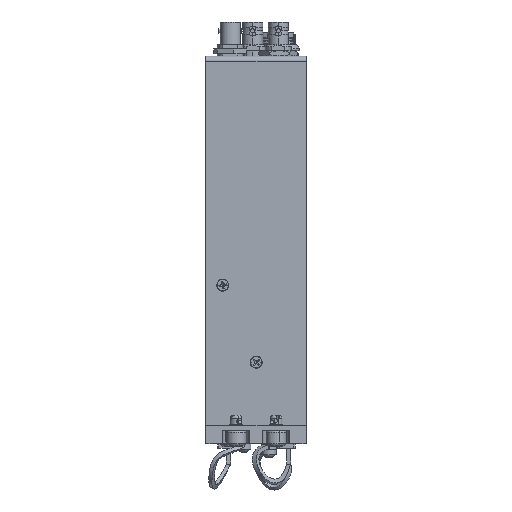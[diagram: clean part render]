
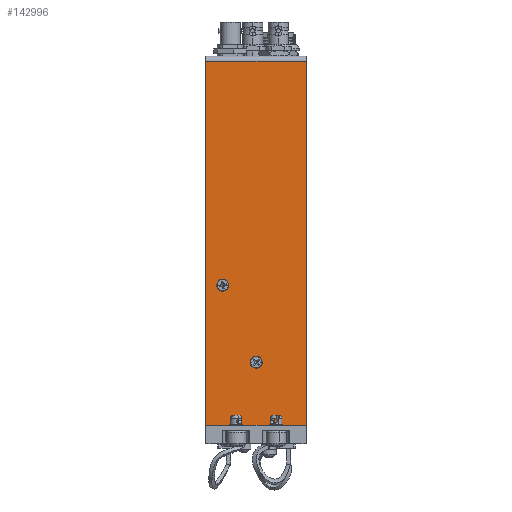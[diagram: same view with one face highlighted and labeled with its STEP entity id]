
A CAD part, left-side view. The second image highlights one B-rep face of the part: STEP entity #142996.
In plain terms, the highlighted planar face has unit normal (-1, 0, 0).
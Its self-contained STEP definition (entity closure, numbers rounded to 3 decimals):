
#2097 = VECTOR ( 'NONE', #67774, 1000. ) ;
#3474 = CARTESIAN_POINT ( 'NONE',  ( -63.5, 23.813, 172.72 ) ) ;
#5023 = FACE_BOUND ( 'NONE', #33870, .T. ) ;
#5351 = ORIENTED_EDGE ( 'NONE', *, *, #123468, .F. ) ;
#8635 = CARTESIAN_POINT ( 'NONE',  ( -63.5, -23.813, 0. ) ) ;
#9117 = VERTEX_POINT ( 'NONE', #91397 ) ;
#11483 = CARTESIAN_POINT ( 'NONE',  ( -63.5, 15.775, 66.456 ) ) ;
#13363 = VECTOR ( 'NONE', #141537, 1000. ) ;
#19388 = ORIENTED_EDGE ( 'NONE', *, *, #35200, .F. ) ;
#21279 = DIRECTION ( 'NONE',  ( 0., 1., 0. ) ) ;
#28037 = CARTESIAN_POINT ( 'NONE',  ( -63.5, 23.813, 0. ) ) ;
#29421 = VECTOR ( 'NONE', #98462, 1000. ) ;
#30256 = CARTESIAN_POINT ( 'NONE',  ( -63.5, 0., -8.89 ) ) ;
#33870 = EDGE_LOOP ( 'NONE', ( #138833, #77879 ) ) ;
#34753 = EDGE_LOOP ( 'NONE', ( #131536, #19388 ) ) ;
#35199 = PLANE ( 'NONE',  #115776 ) ;
#35200 = EDGE_CURVE ( 'NONE', #38869, #131995, #123196, .T. ) ;
#36762 = DIRECTION ( 'NONE',  ( -1., 0., 0. ) ) ;
#37188 = CIRCLE ( 'NONE', #123220, 2.857 ) ;
#38869 = VERTEX_POINT ( 'NONE', #79346 ) ;
#40009 = DIRECTION ( 'NONE',  ( -1., 0., 0. ) ) ;
#44140 = EDGE_LOOP ( 'NONE', ( #5351, #147505, #54261, #81259 ) ) ;
#50335 = LINE ( 'NONE', #8635, #159895 ) ;
#52153 = LINE ( 'NONE', #53858, #2097 ) ;
#53841 = AXIS2_PLACEMENT_3D ( 'NONE', #136862, #36762, #114185 ) ;
#53858 = CARTESIAN_POINT ( 'NONE',  ( -63.5, -23.813, -8.89 ) ) ;
#54261 = ORIENTED_EDGE ( 'NONE', *, *, #106065, .T. ) ;
#58055 = FACE_OUTER_BOUND ( 'NONE', #44140, .T. ) ;
#58219 = EDGE_CURVE ( 'NONE', #74576, #103954, #37188, .T. ) ;
#62381 = CARTESIAN_POINT ( 'NONE',  ( -63.5, 23.813, -8.89 ) ) ;
#67774 = DIRECTION ( 'NONE',  ( 0., 0., 1. ) ) ;
#70674 = CIRCLE ( 'NONE', #81709, 2.857 ) ;
#72713 = DIRECTION ( 'NONE',  ( -1., 0., 0. ) ) ;
#72715 = EDGE_CURVE ( 'NONE', #83784, #9117, #52153, .T. ) ;
#74576 = VERTEX_POINT ( 'NONE', #171669 ) ;
#77879 = ORIENTED_EDGE ( 'NONE', *, *, #161756, .F. ) ;
#79346 = CARTESIAN_POINT ( 'NONE',  ( -63.5, 18.633, 66.456 ) ) ;
#81259 = ORIENTED_EDGE ( 'NONE', *, *, #143909, .F. ) ;
#81336 = VERTEX_POINT ( 'NONE', #3474 ) ;
#81709 = AXIS2_PLACEMENT_3D ( 'NONE', #138805, #72713, #86610 ) ;
#83297 = DIRECTION ( 'NONE',  ( 1., 0., 0. ) ) ;
#83784 = VERTEX_POINT ( 'NONE', #113938 ) ;
#85038 = FACE_BOUND ( 'NONE', #34753, .T. ) ;
#86610 = DIRECTION ( 'NONE',  ( 0., -1., 0. ) ) ;
#90192 = LINE ( 'NONE', #62381, #13363 ) ;
#91397 = CARTESIAN_POINT ( 'NONE',  ( -63.5, -23.813, 172.72 ) ) ;
#93064 = DIRECTION ( 'NONE',  ( 0., -1., 0. ) ) ;
#98258 = AXIS2_PLACEMENT_3D ( 'NONE', #11483, #157622, #147097 ) ;
#98462 = DIRECTION ( 'NONE',  ( 0., 1., 0. ) ) ;
#103954 = VERTEX_POINT ( 'NONE', #144899 ) ;
#106048 = VERTEX_POINT ( 'NONE', #28037 ) ;
#106065 = EDGE_CURVE ( 'NONE', #9117, #81336, #154087, .T. ) ;
#113938 = CARTESIAN_POINT ( 'NONE',  ( -63.5, -23.813, 0. ) ) ;
#114185 = DIRECTION ( 'NONE',  ( 0., -1., 0. ) ) ;
#114731 = DIRECTION ( 'NONE',  ( 0., 1., 0. ) ) ;
#115145 = EDGE_CURVE ( 'NONE', #131995, #38869, #70674, .T. ) ;
#115776 = AXIS2_PLACEMENT_3D ( 'NONE', #30256, #83297, #21279 ) ;
#123196 = CIRCLE ( 'NONE', #98258, 2.857 ) ;
#123220 = AXIS2_PLACEMENT_3D ( 'NONE', #148673, #40009, #93064 ) ;
#123468 = EDGE_CURVE ( 'NONE', #83784, #106048, #50335, .T. ) ;
#128878 = CIRCLE ( 'NONE', #53841, 2.857 ) ;
#131536 = ORIENTED_EDGE ( 'NONE', *, *, #115145, .F. ) ;
#131995 = VERTEX_POINT ( 'NONE', #163966 ) ;
#136862 = CARTESIAN_POINT ( 'NONE',  ( -63.5, -0.1, 29.88 ) ) ;
#138805 = CARTESIAN_POINT ( 'NONE',  ( -63.5, 15.775, 66.456 ) ) ;
#138833 = ORIENTED_EDGE ( 'NONE', *, *, #58219, .F. ) ;
#141537 = DIRECTION ( 'NONE',  ( 0., 0., 1. ) ) ;
#142996 = ADVANCED_FACE ( 'NONE', ( #85038, #5023, #58055 ), #35199, .F. ) ;
#143909 = EDGE_CURVE ( 'NONE', #106048, #81336, #90192, .T. ) ;
#144899 = CARTESIAN_POINT ( 'NONE',  ( -63.5, 2.758, 29.88 ) ) ;
#147097 = DIRECTION ( 'NONE',  ( 0., -1., 0. ) ) ;
#147505 = ORIENTED_EDGE ( 'NONE', *, *, #72715, .T. ) ;
#148673 = CARTESIAN_POINT ( 'NONE',  ( -63.5, -0.1, 29.88 ) ) ;
#154087 = LINE ( 'NONE', #164561, #29421 ) ;
#157622 = DIRECTION ( 'NONE',  ( -1., 0., 0. ) ) ;
#159895 = VECTOR ( 'NONE', #114731, 1000. ) ;
#161756 = EDGE_CURVE ( 'NONE', #103954, #74576, #128878, .T. ) ;
#163966 = CARTESIAN_POINT ( 'NONE',  ( -63.5, 12.918, 66.456 ) ) ;
#164561 = CARTESIAN_POINT ( 'NONE',  ( -63.5, 23.813, 172.72 ) ) ;
#171669 = CARTESIAN_POINT ( 'NONE',  ( -63.5, -2.957, 29.88 ) ) ;
